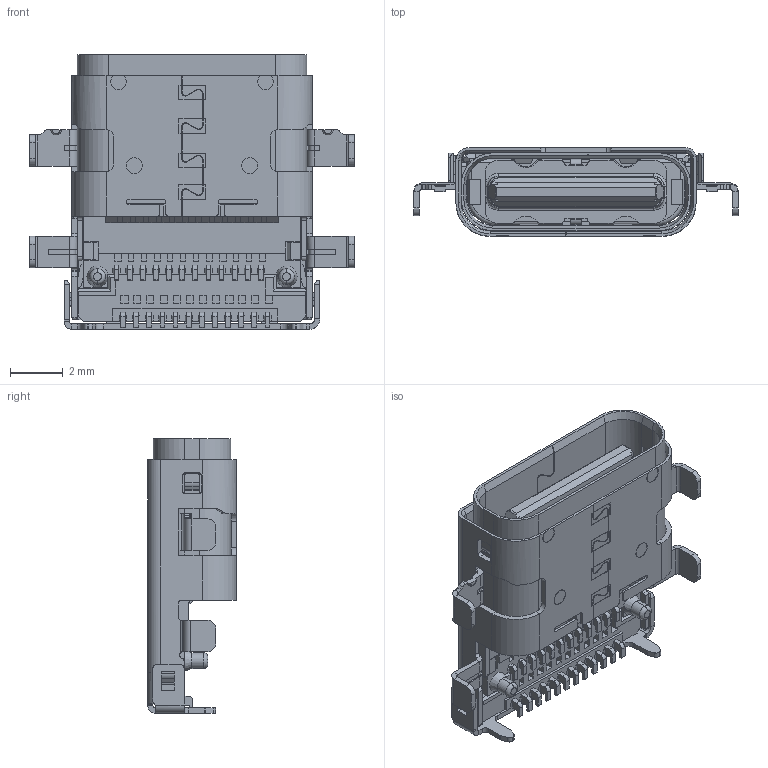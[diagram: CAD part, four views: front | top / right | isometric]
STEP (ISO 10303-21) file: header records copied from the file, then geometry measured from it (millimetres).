
FILE_DESCRIPTION((''),'2;1');
FILE_NAME('S-31861-024XX-XXX_ASM','2018-03-05T',('Junwei'),(''),'PRO/ENGINEER BY PARAMETRIC TECHNOLOGY CORPORATION, 2011330','PRO/ENGINEER BY PARAMETRIC TECHNOLOGY CORPORATION, 2011330','');
FILE_SCHEMA(('CONFIG_CONTROL_DESIGN', 'GEOMETRIC_VALIDATION_PROPERTIES_MIM'));
Products named in the file (2): S-31861-XXXXX-XXX; S-31861-024XX-XXX_ASM
Assembly tree (1 placements, depth 2):
  S-31861-024XX-XXX_ASM
    S-31861-XXXXX-XXX
Bounding box: 12.35 x 3.38 x 10.45 mm (x, y, z)
Volume: 136.9 mm3; surface area: 1070 mm2
Topology: 1 solids, 96 shells, 3346 faces, 9007 edges, 5916 vertices
Faces by surface type: plane 2767, cylinder 502, torus 34, cone 28, bspline 15
Entity records: 104098 total; most frequent: CARTESIAN_POINT 19207, ORIENTED_EDGE 17728, DIRECTION 16620, EDGE_CURVE 8864, VECTOR 7700, LINE 7700, VERTEX_POINT 5774, AXIS2_PLACEMENT_3D 4460
